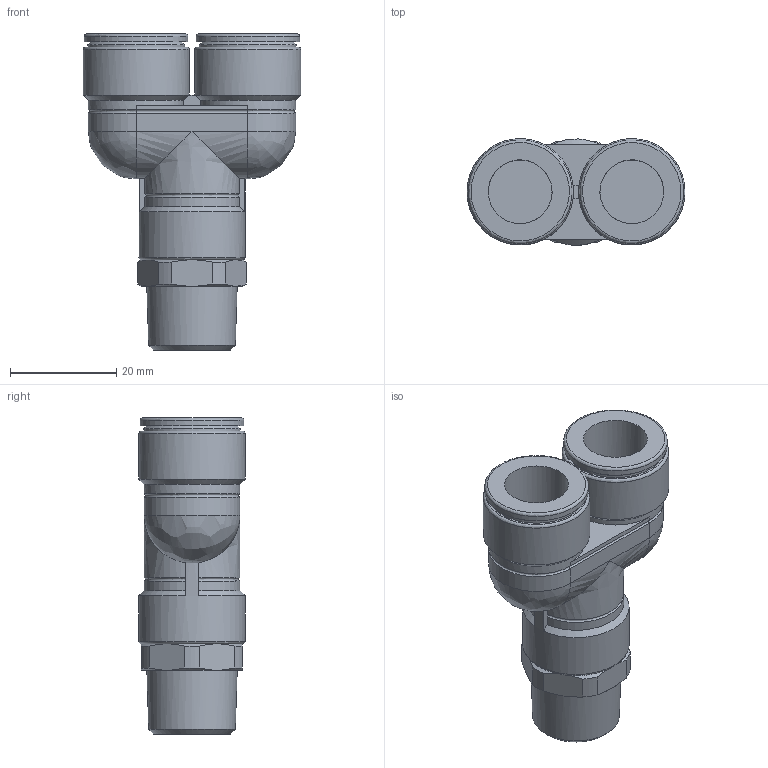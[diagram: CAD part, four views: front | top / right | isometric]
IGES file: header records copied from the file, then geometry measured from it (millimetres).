
Global section: file name: [16] FS12-03MY FS12-03MYW; native system: Autodesk Inventor 2014; preprocessor: unknown; author: kazuhiro.t; date: 20130806.165520; units: millimetre
Bounding box: 41 x 20 x 59.5 mm (x, y, z)
Volume: 20807.9 mm3; surface area: 7470.9 mm2
Topology: 1 solids, 1 shells, 87 faces, 205 edges, 123 vertices
Faces by surface type: bspline 87
